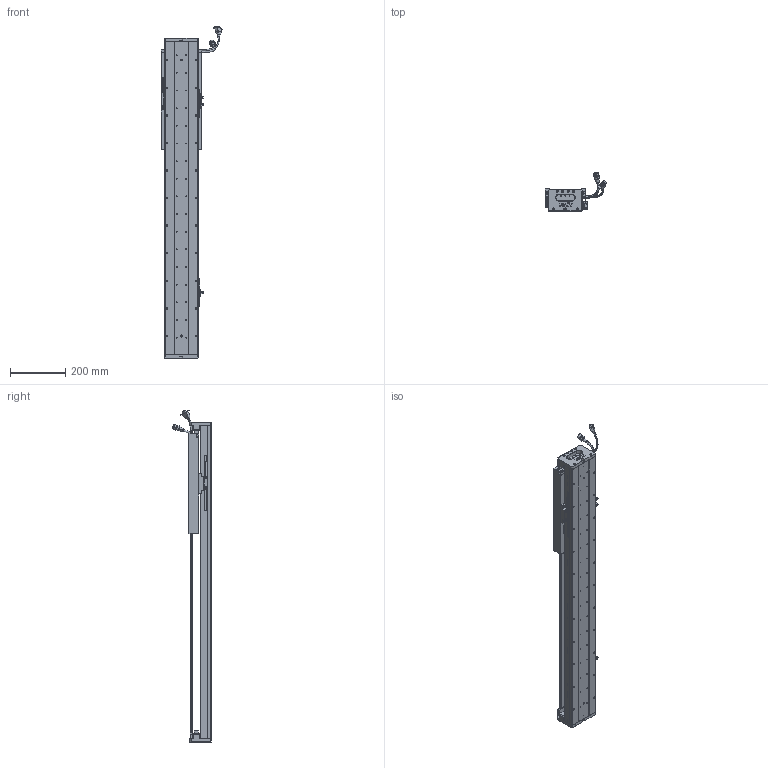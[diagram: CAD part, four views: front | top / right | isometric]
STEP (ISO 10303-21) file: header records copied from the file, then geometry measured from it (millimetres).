
FILE_DESCRIPTION (( 'STEP AP203' ), '1' );
FILE_NAME ('Z5-RY120D-1-L500-B-K.SLDASM_0700.step', '2021-05-17T06:21:39', ( '盈信电脑' ), ( '东莞市道滘镇水果街19号' ), 'SwSTEP 2.0', 'SolidWorks 2016', '' );
FILE_SCHEMA (( 'CONFIG_CONTROL_DESIGN' ));
Length unit declared in the file: millimetre
Products named in the file (37): SHIELDPLATE; Z-120詩湍傷裔啣; 672嫖萇羲壽假蚾釱; Z5-RY120-L500詩湍100mm遵_0700; SCREW-M1.6-3; SCREW-M1.6-1; HARNESS-Part-1; HOLDER0; 覜茼ん672; SCREW-M1.6-2; Z-RY120D詩湍狟揤裔; HARNESS; 榋妏寠巭燃_暯_M2_2; Z5-RY120D-1-L500-B-K.SLDASM_0700; Z5-RY120铝滑块（21款）; PBU_SHEET; LABEL-Part-1; PSLH080_PSLF2; COVER-Part-1; COVER; SCREW-M1.7; 140雄赽晤鎢ん堤盄; 080黍杅芛假蚾釱21遴; SEAL; SCREW-M1.7-1; Z-RY120D詩湍奻揤裔; LABEL; HARNESS-Part-2; SCALE; Z5-RY120-500-倰第菁釱_0700; SCALE-Part-1; SEAL-Part-1; SCALE-Part-2; 140蚥薯蝶輸; SCREW-M1.6; 120-Z-臏賑輸盄裔(21遴); RY100FB-遵嫖萇覜茼え
Assembly tree (43 placements, depth 4):
  Z5-RY120D-1-L500-B-K.SLDASM_0700
    Z5-RY120-500-倰第菁釱_0700
    覜茼ん672  x3
    672嫖萇羲壽假蚾釱  x2
    Z5-RY120铝滑块（21款）
    PSLH080_PSLF2
      SCALE
        SCALE-Part-1
        SCALE-Part-2
      HARNESS
        HARNESS-Part-1
        HARNESS-Part-2
      LABEL
        LABEL-Part-1
      COVER
        COVER-Part-1
      SEAL
        SEAL-Part-1
      榋妏寠巭燃_暯_M2_2
      SHIELDPLATE
      SCREW-M1.7
      SCREW-M1.7-1
      PBU_SHEET
      SCREW-M1.6
      SCREW-M1.6-1
      SCREW-M1.6-2
      SCREW-M1.6-3
      HOLDER0
    080黍杅芛假蚾釱21遴
    120-Z-臏賑輸盄裔(21遴)
    140雄赽晤鎢ん堤盄
    140蚥薯蝶輸  x2
    RY100FB-遵嫖萇覜茼え
    Z-120詩湍傷裔啣  x2
    Z-RY120D詩湍奻揤裔  x2
    Z-RY120D詩湍狟揤裔  x2
    Z5-RY120-L500詩湍100mm遵_0700
Bounding box: 222.87 x 140.94 x 1204 mm (x, y, z)
Volume: 3660889.2 mm3; surface area: 1167949 mm2
Topology: 38 solids, 38 shells, 2913 faces, 7875 edges, 4978 vertices
Faces by surface type: cylinder 1371, plane 1138, cone 282, torus 69, bspline 53
Entity records: 88278 total; most frequent: CARTESIAN_POINT 23651, ORIENTED_EDGE 12710, DIRECTION 12519, EDGE_CURVE 6355, AXIS2_PLACEMENT_3D 4608, VERTEX_POINT 4098, LINE 3303, VECTOR 3303
